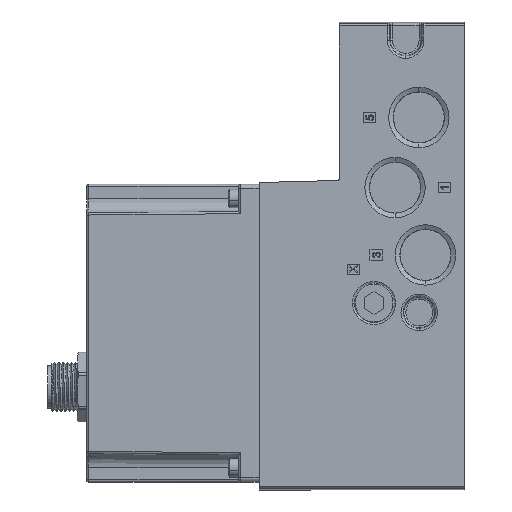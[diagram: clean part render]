
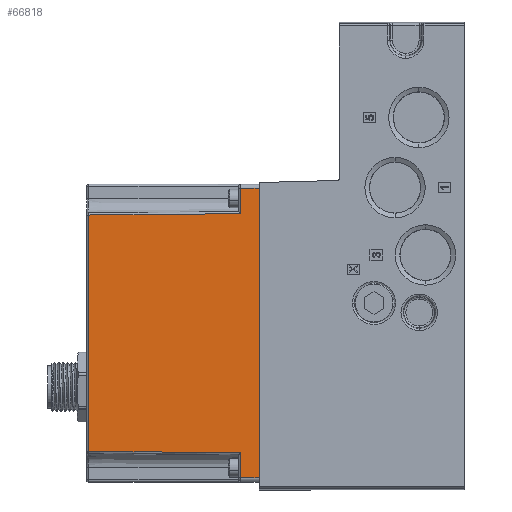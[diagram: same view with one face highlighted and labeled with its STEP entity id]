
A CAD part, left-side view. The second image highlights one B-rep face of the part: STEP entity #66818.
In plain terms, the highlighted planar face has unit normal (-1, 0, 0) as drawn and (0, 0, -1) by its records, which use the part's own axes.
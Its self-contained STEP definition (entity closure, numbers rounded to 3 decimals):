
#711 = LINE ( 'NONE', #136797, #50876 ) ;
#2905 = DIRECTION ( 'NONE',  ( 1., 0., 0. ) ) ;
#3768 = PLANE ( 'NONE',  #42818 ) ;
#6097 = LINE ( 'NONE', #51458, #133211 ) ;
#6750 = CARTESIAN_POINT ( 'NONE',  ( 35.25, 4.5, -13.4 ) ) ;
#6961 = VECTOR ( 'NONE', #76742, 1000. ) ;
#10199 = DIRECTION ( 'NONE',  ( 0.009, -1., 0. ) ) ;
#11626 = CARTESIAN_POINT ( 'NONE',  ( -36.25, 4.5, -13.4 ) ) ;
#16007 = CARTESIAN_POINT ( 'NONE',  ( -35.25, 4.5, -13.4 ) ) ;
#17461 = EDGE_CURVE ( 'NONE', #146691, #107754, #53648, .T. ) ;
#20685 = EDGE_CURVE ( 'NONE', #107754, #123333, #43259, .T. ) ;
#22411 = CARTESIAN_POINT ( 'NONE',  ( 35.25, 0., -13.4 ) ) ;
#22463 = EDGE_CURVE ( 'NONE', #123333, #93923, #6097, .T. ) ;
#22925 = DIRECTION ( 'NONE',  ( 1., 0., 0. ) ) ;
#25056 = CARTESIAN_POINT ( 'NONE',  ( 28.781, 41.5, -13.4 ) ) ;
#32581 = LINE ( 'NONE', #135147, #61329 ) ;
#35258 = VERTEX_POINT ( 'NONE', #92381 ) ;
#38049 = CARTESIAN_POINT ( 'NONE',  ( -36.25, 42., -13.4 ) ) ;
#42818 = AXIS2_PLACEMENT_3D ( 'NONE', #38049, #83410, #128709 ) ;
#43259 = LINE ( 'NONE', #122065, #6961 ) ;
#48612 = CARTESIAN_POINT ( 'NONE',  ( -35.25, 0., -13.4 ) ) ;
#48831 = EDGE_CURVE ( 'NONE', #35258, #146691, #116433, .T. ) ;
#50876 = VECTOR ( 'NONE', #2905, 1000. ) ;
#51458 = CARTESIAN_POINT ( 'NONE',  ( -35.25, 42., -13.4 ) ) ;
#53283 = DIRECTION ( 'NONE',  ( 0.009, 1., 0. ) ) ;
#53648 = LINE ( 'NONE', #144424, #81895 ) ;
#55407 = VERTEX_POINT ( 'NONE', #25056 ) ;
#55434 = CARTESIAN_POINT ( 'NONE',  ( -28.781, 41.5, -13.4 ) ) ;
#57141 = CARTESIAN_POINT ( 'NONE',  ( -36.25, 4.5, -13.4 ) ) ;
#60361 = VERTEX_POINT ( 'NONE', #61049 ) ;
#61049 = CARTESIAN_POINT ( 'NONE',  ( -29.104, 4.5, -13.4 ) ) ;
#61329 = VECTOR ( 'NONE', #10199, 1000. ) ;
#64685 = ORIENTED_EDGE ( 'NONE', *, *, #89873, .T. ) ;
#66818 = ADVANCED_FACE ( 'NONE', ( #116083 ), #3768, .F. ) ;
#68324 = ORIENTED_EDGE ( 'NONE', *, *, #20685, .T. ) ;
#74203 = LINE ( 'NONE', #133617, #99427 ) ;
#76742 = DIRECTION ( 'NONE',  ( -1., 0., 0. ) ) ;
#80673 = VERTEX_POINT ( 'NONE', #55434 ) ;
#81026 = EDGE_LOOP ( 'NONE', ( #117479, #141984, #129552, #68324, #128827, #114295, #64685, #85314 ) ) ;
#81895 = VECTOR ( 'NONE', #110200, 1000. ) ;
#82284 = DIRECTION ( 'NONE',  ( 1., 0., 0. ) ) ;
#83410 = DIRECTION ( 'NONE',  ( 0., 0., 1. ) ) ;
#85314 = ORIENTED_EDGE ( 'NONE', *, *, #146957, .T. ) ;
#89873 = EDGE_CURVE ( 'NONE', #60361, #80673, #74203, .T. ) ;
#92381 = CARTESIAN_POINT ( 'NONE',  ( 29.104, 4.5, -13.4 ) ) ;
#93923 = VERTEX_POINT ( 'NONE', #16007 ) ;
#96844 = DIRECTION ( 'NONE',  ( 0., 1., 0. ) ) ;
#99427 = VECTOR ( 'NONE', #53283, 1000. ) ;
#107754 = VERTEX_POINT ( 'NONE', #22411 ) ;
#110200 = DIRECTION ( 'NONE',  ( 0., -1., 0. ) ) ;
#114295 = ORIENTED_EDGE ( 'NONE', *, *, #134611, .T. ) ;
#116083 = FACE_OUTER_BOUND ( 'NONE', #81026, .T. ) ;
#116433 = LINE ( 'NONE', #11626, #120340 ) ;
#117479 = ORIENTED_EDGE ( 'NONE', *, *, #132344, .T. ) ;
#120340 = VECTOR ( 'NONE', #82284, 1000. ) ;
#122065 = CARTESIAN_POINT ( 'NONE',  ( -36.25, 0., -13.4 ) ) ;
#123333 = VERTEX_POINT ( 'NONE', #48612 ) ;
#124793 = LINE ( 'NONE', #57141, #139891 ) ;
#128709 = DIRECTION ( 'NONE',  ( 1., 0., 0. ) ) ;
#128827 = ORIENTED_EDGE ( 'NONE', *, *, #22463, .T. ) ;
#129552 = ORIENTED_EDGE ( 'NONE', *, *, #17461, .T. ) ;
#132344 = EDGE_CURVE ( 'NONE', #55407, #35258, #32581, .T. ) ;
#133211 = VECTOR ( 'NONE', #96844, 1000. ) ;
#133617 = CARTESIAN_POINT ( 'NONE',  ( -28.778, 41.935, -13.4 ) ) ;
#134611 = EDGE_CURVE ( 'NONE', #93923, #60361, #124793, .T. ) ;
#135147 = CARTESIAN_POINT ( 'NONE',  ( 28.772, 42.567, -13.4 ) ) ;
#136797 = CARTESIAN_POINT ( 'NONE',  ( -36.25, 41.5, -13.4 ) ) ;
#139891 = VECTOR ( 'NONE', #22925, 1000. ) ;
#141984 = ORIENTED_EDGE ( 'NONE', *, *, #48831, .T. ) ;
#144424 = CARTESIAN_POINT ( 'NONE',  ( 35.25, 42., -13.4 ) ) ;
#146691 = VERTEX_POINT ( 'NONE', #6750 ) ;
#146957 = EDGE_CURVE ( 'NONE', #80673, #55407, #711, .T. ) ;
